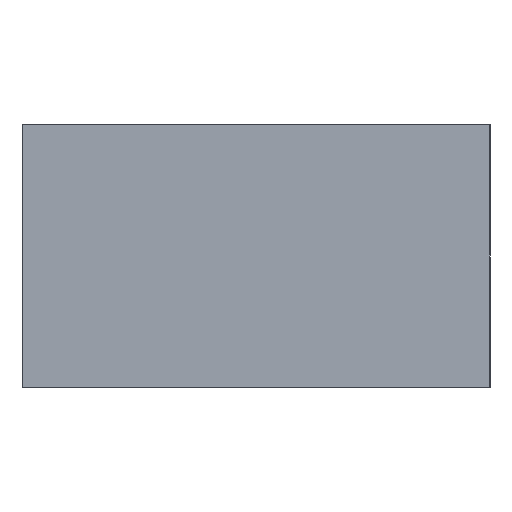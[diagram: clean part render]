
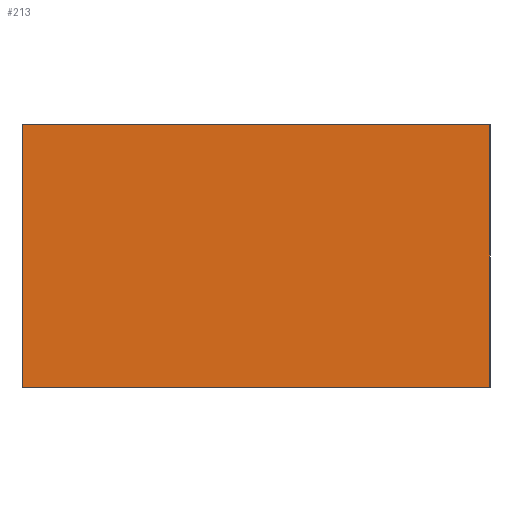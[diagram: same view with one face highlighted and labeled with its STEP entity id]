
A CAD part, left-side view. The second image highlights one B-rep face of the part: STEP entity #213.
In plain terms, the highlighted planar face has unit normal (-1, 0, 0).
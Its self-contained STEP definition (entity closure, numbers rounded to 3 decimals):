
#213=ADVANCED_FACE('',(#417),#419,.T.);
#417=FACE_BOUND('',#418,.T.);
#418=EDGE_LOOP('',(#562,#563,#564,#565));
#419=PLANE('',#420);
#420=AXIS2_PLACEMENT_3D('',#421,#422,#423);
#421=CARTESIAN_POINT('',(-1.,-0.625,0.));
#422=DIRECTION('',(-1.,0.,0.));
#423=DIRECTION('',(0.,0.,1.));
#562=ORIENTED_EDGE('',*,*,#640,.T.);
#563=ORIENTED_EDGE('',*,*,#649,.T.);
#564=ORIENTED_EDGE('',*,*,#641,.F.);
#565=ORIENTED_EDGE('',*,*,#648,.F.);
#640=EDGE_CURVE('',#713,#718,#720,.T.);
#641=EDGE_CURVE('',#721,#722,#723,.T.);
#648=EDGE_CURVE('',#713,#721,#732,.T.);
#649=EDGE_CURVE('',#718,#722,#733,.T.);
#713=VERTEX_POINT('',#857);
#718=VERTEX_POINT('',#868);
#720=LINE('',#872,#873);
#721=VERTEX_POINT('',#875);
#722=VERTEX_POINT('',#876);
#723=LINE('',#877,#878);
#732=LINE('',#900,#901);
#733=LINE('',#903,#904);
#857=CARTESIAN_POINT('',(-1.,-0.625,0.));
#868=CARTESIAN_POINT('',(-1.,-0.625,0.7));
#872=CARTESIAN_POINT('',(-1.,-0.625,0.));
#873=VECTOR('',#874,1.);
#874=DIRECTION('',(0.,0.,1.));
#875=CARTESIAN_POINT('',(-1.,0.625,0.));
#876=CARTESIAN_POINT('',(-1.,0.625,0.7));
#877=CARTESIAN_POINT('',(-1.,0.625,0.));
#878=VECTOR('',#879,1.);
#879=DIRECTION('',(0.,0.,1.));
#900=CARTESIAN_POINT('',(-1.,-0.625,0.));
#901=VECTOR('',#902,1.);
#902=DIRECTION('',(0.,1.,0.));
#903=CARTESIAN_POINT('',(-1.,-0.625,0.7));
#904=VECTOR('',#905,1.);
#905=DIRECTION('',(0.,1.,0.));
